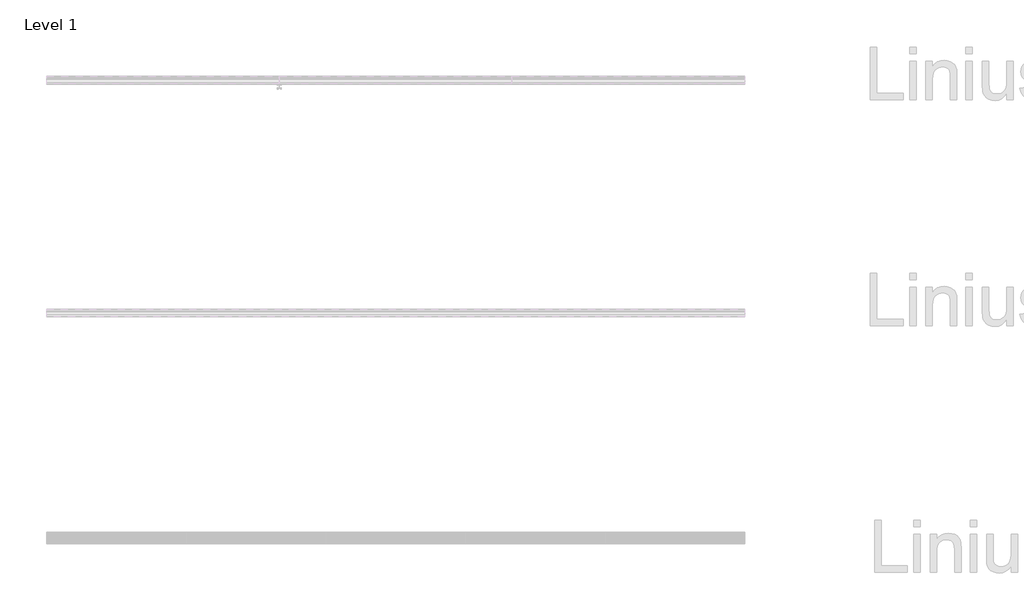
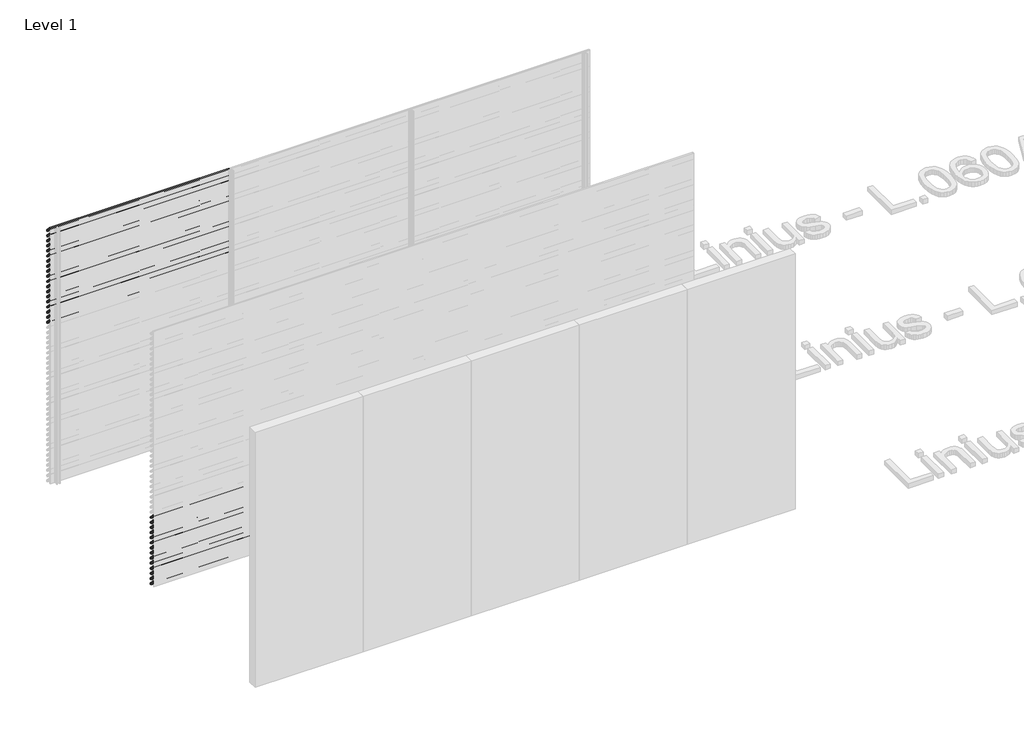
# One storey, part 50 of 153: 33 proxies.
"""IFC4 building model written with IfcOpenShell, lengths in millimetres."""

from ifc_helpers import new_model, si_unit, point, frame, frame_2d, origin, place, context, project, spatial, polyline, circle_curve, trimmed, segment, composite_curve, outline, extrude, element, save

model = new_model("IFC4")

# Units and contexts
model_context = context("Model", 3, world=origin())
ifc_project = project(units=[si_unit("LENGTHUNIT", "METRE", prefix="MILLI")], contexts=[model_context])

# Site, building, storey
site = spatial("IfcSite", under=ifc_project)
building = spatial("IfcBuilding", under=site)
storey = spatial("IfcBuildingStorey", under=building, Name="Level 1", Elevation=0.0)

# Proxies
placement = place(None, origin())
element("IfcBuildingElementProxy", 1, Name="Wall Sweeps", at=placement, inside=storey, context=model_context, shape_type="SweptSolid", body=[
    extrude(outline(composite_curve([segment(polyline([(21485.0540136, 3000.0), (21499.874191, 2998.7034025), (21549.0540136, 2945.0102749), (21549.0540136, 2933.6108187)]), True, "CONTINUOUS"), segment(trimmed(circle_curve(frame_2d((21545.7883652, 2933.897153)), 3.2781774), [point((21549.0540136, 2933.6108187))], [point((21546.4639442, 2930.6893438))], False, "CARTESIAN"), True, "CONTINUOUS"), segment(polyline([(21546.4639442, 2930.6893438), (21534.1895723, 2931.6282758), (21485.0540136, 2985.2730773), (21485.0540136, 3000.0)]), True, "CONTINUOUS")], self_intersect=False), holes=[composite_curve([segment(polyline([(21499.1621773, 2997.2599659), (21486.5540136, 2998.3630372), (21486.5540136, 2985.856213), (21534.8952036, 2933.0786805), (21546.3312542, 2932.2038762)]), True, "CONTINUOUS"), segment(trimmed(circle_curve(frame_2d((21545.7883652, 2933.897153)), 1.7781774), [point((21546.3312542, 2932.2038762))], [point((21547.5540136, 2933.6864389))], True, "CARTESIAN"), True, "CONTINUOUS"), segment(polyline([(21547.5540136, 2933.6864389), (21547.5540136, 2944.4271392), (21499.1621773, 2997.2599659)]), True, "CONTINUOUS")], self_intersect=False)]), frame((44966.6208097, 0.0, 0.0), z_axis=(1.0, 0.0, 0.0), x_axis=(0.0, 1.0, 0.0)), (0.0, 0.0, 1.0), 2000.0000001),
])
element("IfcBuildingElementProxy", 2, Name="Wall Sweeps", at=placement, inside=storey, context=model_context, shape_type="SweptSolid", body=[
    extrude(outline(composite_curve([segment(polyline([(21485.0540136, 2940.0), (21499.874191, 2938.7034025), (21549.0540136, 2885.0102749), (21549.0540136, 2873.6108187)]), True, "CONTINUOUS"), segment(trimmed(circle_curve(frame_2d((21545.7883652, 2873.897153)), 3.2781774), [point((21549.0540136, 2873.6108187))], [point((21546.4639442, 2870.6893438))], False, "CARTESIAN"), True, "CONTINUOUS"), segment(polyline([(21546.4639442, 2870.6893438), (21534.1895723, 2871.6282758), (21485.0540136, 2925.2730773), (21485.0540136, 2940.0)]), True, "CONTINUOUS")], self_intersect=False), holes=[composite_curve([segment(polyline([(21499.1621773, 2937.2599659), (21486.5540136, 2938.3630372), (21486.5540136, 2925.856213), (21534.8952036, 2873.0786805), (21546.3312542, 2872.2038762)]), True, "CONTINUOUS"), segment(trimmed(circle_curve(frame_2d((21545.7883652, 2873.897153)), 1.7781774), [point((21546.3312542, 2872.2038762))], [point((21547.5540136, 2873.6864389))], True, "CARTESIAN"), True, "CONTINUOUS"), segment(polyline([(21547.5540136, 2873.6864389), (21547.5540136, 2884.4271392), (21499.1621773, 2937.2599659)]), True, "CONTINUOUS")], self_intersect=False)]), frame((44966.6208097, 0.0, 0.0), z_axis=(1.0, 0.0, 0.0), x_axis=(0.0, 1.0, 0.0)), (0.0, 0.0, 1.0), 2000.0000001),
])
element("IfcBuildingElementProxy", 3, Name="Wall Sweeps", at=placement, inside=storey, context=model_context, shape_type="SweptSolid", body=[
    extrude(outline(composite_curve([segment(polyline([(21485.0540136, 2880.0), (21499.874191, 2878.7034025), (21549.0540136, 2825.0102749), (21549.0540136, 2813.6108187)]), True, "CONTINUOUS"), segment(trimmed(circle_curve(frame_2d((21545.7883652, 2813.897153)), 3.2781774), [point((21549.0540136, 2813.6108187))], [point((21546.4639442, 2810.6893438))], False, "CARTESIAN"), True, "CONTINUOUS"), segment(polyline([(21546.4639442, 2810.6893438), (21534.1895723, 2811.6282758), (21485.0540136, 2865.2730773), (21485.0540136, 2880.0)]), True, "CONTINUOUS")], self_intersect=False), holes=[composite_curve([segment(polyline([(21499.1621773, 2877.2599659), (21486.5540136, 2878.3630372), (21486.5540136, 2865.856213), (21534.8952036, 2813.0786805), (21546.3312542, 2812.2038762)]), True, "CONTINUOUS"), segment(trimmed(circle_curve(frame_2d((21545.7883652, 2813.897153)), 1.7781774), [point((21546.3312542, 2812.2038762))], [point((21547.5540136, 2813.6864389))], True, "CARTESIAN"), True, "CONTINUOUS"), segment(polyline([(21547.5540136, 2813.6864389), (21547.5540136, 2824.4271392), (21499.1621773, 2877.2599659)]), True, "CONTINUOUS")], self_intersect=False)]), frame((44966.6208097, 0.0, 0.0), z_axis=(1.0, 0.0, 0.0), x_axis=(0.0, 1.0, 0.0)), (0.0, 0.0, 1.0), 2000.0000001),
])
element("IfcBuildingElementProxy", 4, Name="Wall Sweeps", at=placement, inside=storey, context=model_context, shape_type="SweptSolid", body=[
    extrude(outline(composite_curve([segment(polyline([(21485.0540136, 2820.0), (21499.874191, 2818.7034025), (21549.0540136, 2765.0102749), (21549.0540136, 2753.6108187)]), True, "CONTINUOUS"), segment(trimmed(circle_curve(frame_2d((21545.7883652, 2753.897153)), 3.2781774), [point((21549.0540136, 2753.6108187))], [point((21546.4639442, 2750.6893438))], False, "CARTESIAN"), True, "CONTINUOUS"), segment(polyline([(21546.4639442, 2750.6893438), (21534.1895723, 2751.6282758), (21485.0540136, 2805.2730773), (21485.0540136, 2820.0)]), True, "CONTINUOUS")], self_intersect=False), holes=[composite_curve([segment(polyline([(21499.1621773, 2817.2599659), (21486.5540136, 2818.3630372), (21486.5540136, 2805.856213), (21534.8952036, 2753.0786805), (21546.3312542, 2752.2038762)]), True, "CONTINUOUS"), segment(trimmed(circle_curve(frame_2d((21545.7883652, 2753.897153)), 1.7781774), [point((21546.3312542, 2752.2038762))], [point((21547.5540136, 2753.6864389))], True, "CARTESIAN"), True, "CONTINUOUS"), segment(polyline([(21547.5540136, 2753.6864389), (21547.5540136, 2764.4271392), (21499.1621773, 2817.2599659)]), True, "CONTINUOUS")], self_intersect=False)]), frame((44966.6208097, 0.0, 0.0), z_axis=(1.0, 0.0, 0.0), x_axis=(0.0, 1.0, 0.0)), (0.0, 0.0, 1.0), 2000.0000001),
])
element("IfcBuildingElementProxy", 5, Name="Wall Sweeps", at=placement, inside=storey, context=model_context, shape_type="SweptSolid", body=[
    extrude(outline(composite_curve([segment(polyline([(21485.0540136, 2760.0), (21499.874191, 2758.7034025), (21549.0540136, 2705.0102749), (21549.0540136, 2693.6108187)]), True, "CONTINUOUS"), segment(trimmed(circle_curve(frame_2d((21545.7883652, 2693.897153)), 3.2781774), [point((21549.0540136, 2693.6108187))], [point((21546.4639442, 2690.6893438))], False, "CARTESIAN"), True, "CONTINUOUS"), segment(polyline([(21546.4639442, 2690.6893438), (21534.1895723, 2691.6282758), (21485.0540136, 2745.2730773), (21485.0540136, 2760.0)]), True, "CONTINUOUS")], self_intersect=False), holes=[composite_curve([segment(polyline([(21499.1621773, 2757.2599659), (21486.5540136, 2758.3630372), (21486.5540136, 2745.856213), (21534.8952036, 2693.0786805), (21546.3312542, 2692.2038762)]), True, "CONTINUOUS"), segment(trimmed(circle_curve(frame_2d((21545.7883652, 2693.897153)), 1.7781774), [point((21546.3312542, 2692.2038762))], [point((21547.5540136, 2693.6864389))], True, "CARTESIAN"), True, "CONTINUOUS"), segment(polyline([(21547.5540136, 2693.6864389), (21547.5540136, 2704.4271392), (21499.1621773, 2757.2599659)]), True, "CONTINUOUS")], self_intersect=False)]), frame((44966.6208097, 0.0, 0.0), z_axis=(1.0, 0.0, 0.0), x_axis=(0.0, 1.0, 0.0)), (0.0, 0.0, 1.0), 2000.0000001),
])
element("IfcBuildingElementProxy", 6, Name="Wall Sweeps", at=placement, inside=storey, context=model_context, shape_type="SweptSolid", body=[
    extrude(outline(composite_curve([segment(polyline([(21485.0540136, 2700.0), (21499.874191, 2698.7034025), (21549.0540136, 2645.0102749), (21549.0540136, 2633.6108187)]), True, "CONTINUOUS"), segment(trimmed(circle_curve(frame_2d((21545.7883652, 2633.897153)), 3.2781774), [point((21549.0540136, 2633.6108187))], [point((21546.4639442, 2630.6893438))], False, "CARTESIAN"), True, "CONTINUOUS"), segment(polyline([(21546.4639442, 2630.6893438), (21534.1895723, 2631.6282758), (21485.0540136, 2685.2730773), (21485.0540136, 2700.0)]), True, "CONTINUOUS")], self_intersect=False), holes=[composite_curve([segment(polyline([(21499.1621773, 2697.2599659), (21486.5540136, 2698.3630372), (21486.5540136, 2685.856213), (21534.8952036, 2633.0786805), (21546.3312542, 2632.2038762)]), True, "CONTINUOUS"), segment(trimmed(circle_curve(frame_2d((21545.7883652, 2633.897153)), 1.7781774), [point((21546.3312542, 2632.2038762))], [point((21547.5540136, 2633.6864389))], True, "CARTESIAN"), True, "CONTINUOUS"), segment(polyline([(21547.5540136, 2633.6864389), (21547.5540136, 2644.4271392), (21499.1621773, 2697.2599659)]), True, "CONTINUOUS")], self_intersect=False)]), frame((44966.6208097, 0.0, 0.0), z_axis=(1.0, 0.0, 0.0), x_axis=(0.0, 1.0, 0.0)), (0.0, 0.0, 1.0), 2000.0000001),
])
element("IfcBuildingElementProxy", 7, Name="Wall Sweeps", at=placement, inside=storey, context=model_context, shape_type="SweptSolid", body=[
    extrude(outline(composite_curve([segment(polyline([(21485.0540136, 2640.0), (21499.874191, 2638.7034025), (21549.0540136, 2585.0102749), (21549.0540136, 2573.6108187)]), True, "CONTINUOUS"), segment(trimmed(circle_curve(frame_2d((21545.7883652, 2573.897153)), 3.2781774), [point((21549.0540136, 2573.6108187))], [point((21546.4639442, 2570.6893438))], False, "CARTESIAN"), True, "CONTINUOUS"), segment(polyline([(21546.4639442, 2570.6893438), (21534.1895723, 2571.6282758), (21485.0540136, 2625.2730773), (21485.0540136, 2640.0)]), True, "CONTINUOUS")], self_intersect=False), holes=[composite_curve([segment(polyline([(21499.1621773, 2637.2599659), (21486.5540136, 2638.3630372), (21486.5540136, 2625.856213), (21534.8952036, 2573.0786805), (21546.3312542, 2572.2038762)]), True, "CONTINUOUS"), segment(trimmed(circle_curve(frame_2d((21545.7883652, 2573.897153)), 1.7781774), [point((21546.3312542, 2572.2038762))], [point((21547.5540136, 2573.6864389))], True, "CARTESIAN"), True, "CONTINUOUS"), segment(polyline([(21547.5540136, 2573.6864389), (21547.5540136, 2584.4271392), (21499.1621773, 2637.2599659)]), True, "CONTINUOUS")], self_intersect=False)]), frame((44966.6208097, 0.0, 0.0), z_axis=(1.0, 0.0, 0.0), x_axis=(0.0, 1.0, 0.0)), (0.0, 0.0, 1.0), 2000.0000001),
])
element("IfcBuildingElementProxy", 8, Name="Wall Sweeps", at=placement, inside=storey, context=model_context, shape_type="SweptSolid", body=[
    extrude(outline(composite_curve([segment(polyline([(21485.0540136, 2580.0), (21499.874191, 2578.7034025), (21549.0540136, 2525.0102749), (21549.0540136, 2513.6108187)]), True, "CONTINUOUS"), segment(trimmed(circle_curve(frame_2d((21545.7883652, 2513.897153)), 3.2781774), [point((21549.0540136, 2513.6108187))], [point((21546.4639442, 2510.6893438))], False, "CARTESIAN"), True, "CONTINUOUS"), segment(polyline([(21546.4639442, 2510.6893438), (21534.1895723, 2511.6282758), (21485.0540136, 2565.2730773), (21485.0540136, 2580.0)]), True, "CONTINUOUS")], self_intersect=False), holes=[composite_curve([segment(polyline([(21499.1621773, 2577.2599659), (21486.5540136, 2578.3630372), (21486.5540136, 2565.856213), (21534.8952036, 2513.0786805), (21546.3312542, 2512.2038762)]), True, "CONTINUOUS"), segment(trimmed(circle_curve(frame_2d((21545.7883652, 2513.897153)), 1.7781774), [point((21546.3312542, 2512.2038762))], [point((21547.5540136, 2513.6864389))], True, "CARTESIAN"), True, "CONTINUOUS"), segment(polyline([(21547.5540136, 2513.6864389), (21547.5540136, 2524.4271392), (21499.1621773, 2577.2599659)]), True, "CONTINUOUS")], self_intersect=False)]), frame((44966.6208097, 0.0, 0.0), z_axis=(1.0, 0.0, 0.0), x_axis=(0.0, 1.0, 0.0)), (0.0, 0.0, 1.0), 2000.0000001),
])
element("IfcBuildingElementProxy", 9, Name="Wall Sweeps", at=placement, inside=storey, context=model_context, shape_type="SweptSolid", body=[
    extrude(outline(composite_curve([segment(polyline([(21485.0540136, 2520.0), (21499.874191, 2518.7034025), (21549.0540136, 2465.0102749), (21549.0540136, 2453.6108187)]), True, "CONTINUOUS"), segment(trimmed(circle_curve(frame_2d((21545.7883652, 2453.897153)), 3.2781774), [point((21549.0540136, 2453.6108187))], [point((21546.4639442, 2450.6893438))], False, "CARTESIAN"), True, "CONTINUOUS"), segment(polyline([(21546.4639442, 2450.6893438), (21534.1895723, 2451.6282758), (21485.0540136, 2505.2730773), (21485.0540136, 2520.0)]), True, "CONTINUOUS")], self_intersect=False), holes=[composite_curve([segment(polyline([(21499.1621773, 2517.2599659), (21486.5540136, 2518.3630372), (21486.5540136, 2505.856213), (21534.8952036, 2453.0786805), (21546.3312542, 2452.2038762)]), True, "CONTINUOUS"), segment(trimmed(circle_curve(frame_2d((21545.7883652, 2453.897153)), 1.7781774), [point((21546.3312542, 2452.2038762))], [point((21547.5540136, 2453.6864389))], True, "CARTESIAN"), True, "CONTINUOUS"), segment(polyline([(21547.5540136, 2453.6864389), (21547.5540136, 2464.4271392), (21499.1621773, 2517.2599659)]), True, "CONTINUOUS")], self_intersect=False)]), frame((44966.6208097, 0.0, 0.0), z_axis=(1.0, 0.0, 0.0), x_axis=(0.0, 1.0, 0.0)), (0.0, 0.0, 1.0), 2000.0000001),
])
element("IfcBuildingElementProxy", 10, Name="Wall Sweeps", at=placement, inside=storey, context=model_context, shape_type="SweptSolid", body=[
    extrude(outline(composite_curve([segment(polyline([(21485.0540136, 2460.0), (21499.874191, 2458.7034025), (21549.0540136, 2405.0102749), (21549.0540136, 2393.6108187)]), True, "CONTINUOUS"), segment(trimmed(circle_curve(frame_2d((21545.7883652, 2393.897153)), 3.2781774), [point((21549.0540136, 2393.6108187))], [point((21546.4639442, 2390.6893438))], False, "CARTESIAN"), True, "CONTINUOUS"), segment(polyline([(21546.4639442, 2390.6893438), (21534.1895723, 2391.6282758), (21485.0540136, 2445.2730773), (21485.0540136, 2460.0)]), True, "CONTINUOUS")], self_intersect=False), holes=[composite_curve([segment(polyline([(21499.1621773, 2457.2599659), (21486.5540136, 2458.3630372), (21486.5540136, 2445.856213), (21534.8952036, 2393.0786805), (21546.3312542, 2392.2038762)]), True, "CONTINUOUS"), segment(trimmed(circle_curve(frame_2d((21545.7883652, 2393.897153)), 1.7781774), [point((21546.3312542, 2392.2038762))], [point((21547.5540136, 2393.6864389))], True, "CARTESIAN"), True, "CONTINUOUS"), segment(polyline([(21547.5540136, 2393.6864389), (21547.5540136, 2404.4271392), (21499.1621773, 2457.2599659)]), True, "CONTINUOUS")], self_intersect=False)]), frame((44966.6208097, 0.0, 0.0), z_axis=(1.0, 0.0, 0.0), x_axis=(0.0, 1.0, 0.0)), (0.0, 0.0, 1.0), 2000.0000001),
])
element("IfcBuildingElementProxy", 11, Name="Wall Sweeps", at=placement, inside=storey, context=model_context, shape_type="SweptSolid", body=[
    extrude(outline(composite_curve([segment(polyline([(21485.0540136, 2400.0), (21499.874191, 2398.7034025), (21549.0540136, 2345.0102749), (21549.0540136, 2333.6108187)]), True, "CONTINUOUS"), segment(trimmed(circle_curve(frame_2d((21545.7883652, 2333.897153)), 3.2781774), [point((21549.0540136, 2333.6108187))], [point((21546.4639442, 2330.6893438))], False, "CARTESIAN"), True, "CONTINUOUS"), segment(polyline([(21546.4639442, 2330.6893438), (21534.1895723, 2331.6282758), (21485.0540136, 2385.2730773), (21485.0540136, 2400.0)]), True, "CONTINUOUS")], self_intersect=False), holes=[composite_curve([segment(polyline([(21499.1621773, 2397.2599659), (21486.5540136, 2398.3630372), (21486.5540136, 2385.856213), (21534.8952036, 2333.0786805), (21546.3312542, 2332.2038762)]), True, "CONTINUOUS"), segment(trimmed(circle_curve(frame_2d((21545.7883652, 2333.897153)), 1.7781774), [point((21546.3312542, 2332.2038762))], [point((21547.5540136, 2333.6864389))], True, "CARTESIAN"), True, "CONTINUOUS"), segment(polyline([(21547.5540136, 2333.6864389), (21547.5540136, 2344.4271392), (21499.1621773, 2397.2599659)]), True, "CONTINUOUS")], self_intersect=False)]), frame((44966.6208097, 0.0, 0.0), z_axis=(1.0, 0.0, 0.0), x_axis=(0.0, 1.0, 0.0)), (0.0, 0.0, 1.0), 2000.0000001),
])
element("IfcBuildingElementProxy", 12, Name="Wall Sweeps", at=placement, inside=storey, context=model_context, shape_type="SweptSolid", body=[
    extrude(outline(composite_curve([segment(polyline([(21485.0540136, 2340.0), (21499.874191, 2338.7034025), (21549.0540136, 2285.0102749), (21549.0540136, 2273.6108187)]), True, "CONTINUOUS"), segment(trimmed(circle_curve(frame_2d((21545.7883652, 2273.897153)), 3.2781774), [point((21549.0540136, 2273.6108187))], [point((21546.4639442, 2270.6893438))], False, "CARTESIAN"), True, "CONTINUOUS"), segment(polyline([(21546.4639442, 2270.6893438), (21534.1895723, 2271.6282758), (21485.0540136, 2325.2730773), (21485.0540136, 2340.0)]), True, "CONTINUOUS")], self_intersect=False), holes=[composite_curve([segment(polyline([(21499.1621773, 2337.2599659), (21486.5540136, 2338.3630372), (21486.5540136, 2325.856213), (21534.8952036, 2273.0786805), (21546.3312542, 2272.2038762)]), True, "CONTINUOUS"), segment(trimmed(circle_curve(frame_2d((21545.7883652, 2273.897153)), 1.7781774), [point((21546.3312542, 2272.2038762))], [point((21547.5540136, 2273.6864389))], True, "CARTESIAN"), True, "CONTINUOUS"), segment(polyline([(21547.5540136, 2273.6864389), (21547.5540136, 2284.4271392), (21499.1621773, 2337.2599659)]), True, "CONTINUOUS")], self_intersect=False)]), frame((44966.6208097, 0.0, 0.0), z_axis=(1.0, 0.0, 0.0), x_axis=(0.0, 1.0, 0.0)), (0.0, 0.0, 1.0), 2000.0000001),
])
element("IfcBuildingElementProxy", 13, Name="Wall Sweeps", at=placement, inside=storey, context=model_context, shape_type="SweptSolid", body=[
    extrude(outline(composite_curve([segment(polyline([(21485.0540136, 2280.0), (21499.874191, 2278.7034025), (21549.0540136, 2225.0102749), (21549.0540136, 2213.6108187)]), True, "CONTINUOUS"), segment(trimmed(circle_curve(frame_2d((21545.7883652, 2213.897153)), 3.2781774), [point((21549.0540136, 2213.6108187))], [point((21546.4639442, 2210.6893438))], False, "CARTESIAN"), True, "CONTINUOUS"), segment(polyline([(21546.4639442, 2210.6893438), (21534.1895723, 2211.6282758), (21485.0540136, 2265.2730773), (21485.0540136, 2280.0)]), True, "CONTINUOUS")], self_intersect=False), holes=[composite_curve([segment(polyline([(21499.1621773, 2277.2599659), (21486.5540136, 2278.3630372), (21486.5540136, 2265.856213), (21534.8952036, 2213.0786805), (21546.3312542, 2212.2038762)]), True, "CONTINUOUS"), segment(trimmed(circle_curve(frame_2d((21545.7883652, 2213.897153)), 1.7781774), [point((21546.3312542, 2212.2038762))], [point((21547.5540136, 2213.6864389))], True, "CARTESIAN"), True, "CONTINUOUS"), segment(polyline([(21547.5540136, 2213.6864389), (21547.5540136, 2224.4271392), (21499.1621773, 2277.2599659)]), True, "CONTINUOUS")], self_intersect=False)]), frame((44966.6208097, 0.0, 0.0), z_axis=(1.0, 0.0, 0.0), x_axis=(0.0, 1.0, 0.0)), (0.0, 0.0, 1.0), 2000.0000001),
])
element("IfcBuildingElementProxy", 14, Name="Wall Sweeps", at=placement, inside=storey, context=model_context, shape_type="SweptSolid", body=[
    extrude(outline(composite_curve([segment(polyline([(21485.0540136, 2220.0), (21499.874191, 2218.7034025), (21549.0540136, 2165.0102749), (21549.0540136, 2153.6108187)]), True, "CONTINUOUS"), segment(trimmed(circle_curve(frame_2d((21545.7883652, 2153.897153)), 3.2781774), [point((21549.0540136, 2153.6108187))], [point((21546.4639442, 2150.6893438))], False, "CARTESIAN"), True, "CONTINUOUS"), segment(polyline([(21546.4639442, 2150.6893438), (21534.1895723, 2151.6282758), (21485.0540136, 2205.2730773), (21485.0540136, 2220.0)]), True, "CONTINUOUS")], self_intersect=False), holes=[composite_curve([segment(polyline([(21499.1621773, 2217.2599659), (21486.5540136, 2218.3630372), (21486.5540136, 2205.856213), (21534.8952036, 2153.0786805), (21546.3312542, 2152.2038762)]), True, "CONTINUOUS"), segment(trimmed(circle_curve(frame_2d((21545.7883652, 2153.897153)), 1.7781774), [point((21546.3312542, 2152.2038762))], [point((21547.5540136, 2153.6864389))], True, "CARTESIAN"), True, "CONTINUOUS"), segment(polyline([(21547.5540136, 2153.6864389), (21547.5540136, 2164.4271392), (21499.1621773, 2217.2599659)]), True, "CONTINUOUS")], self_intersect=False)]), frame((44966.6208097, 0.0, 0.0), z_axis=(1.0, 0.0, 0.0), x_axis=(0.0, 1.0, 0.0)), (0.0, 0.0, 1.0), 2000.0000001),
])
element("IfcBuildingElementProxy", 15, Name="Wall Sweeps", at=placement, inside=storey, context=model_context, shape_type="SweptSolid", body=[
    extrude(outline(composite_curve([segment(polyline([(21485.0540136, 2160.0), (21499.874191, 2158.7034025), (21549.0540136, 2105.0102749), (21549.0540136, 2093.6108187)]), True, "CONTINUOUS"), segment(trimmed(circle_curve(frame_2d((21545.7883652, 2093.897153)), 3.2781774), [point((21549.0540136, 2093.6108187))], [point((21546.4639442, 2090.6893438))], False, "CARTESIAN"), True, "CONTINUOUS"), segment(polyline([(21546.4639442, 2090.6893438), (21534.1895723, 2091.6282758), (21485.0540136, 2145.2730773), (21485.0540136, 2160.0)]), True, "CONTINUOUS")], self_intersect=False), holes=[composite_curve([segment(polyline([(21499.1621773, 2157.2599659), (21486.5540136, 2158.3630372), (21486.5540136, 2145.856213), (21534.8952036, 2093.0786805), (21546.3312542, 2092.2038762)]), True, "CONTINUOUS"), segment(trimmed(circle_curve(frame_2d((21545.7883652, 2093.897153)), 1.7781774), [point((21546.3312542, 2092.2038762))], [point((21547.5540136, 2093.6864389))], True, "CARTESIAN"), True, "CONTINUOUS"), segment(polyline([(21547.5540136, 2093.6864389), (21547.5540136, 2104.4271392), (21499.1621773, 2157.2599659)]), True, "CONTINUOUS")], self_intersect=False)]), frame((44966.6208097, 0.0, 0.0), z_axis=(1.0, 0.0, 0.0), x_axis=(0.0, 1.0, 0.0)), (0.0, 0.0, 1.0), 2000.0000001),
])
element("IfcBuildingElementProxy", 16, Name="Wall Sweeps", at=placement, inside=storey, context=model_context, shape_type="SweptSolid", body=[
    extrude(outline(composite_curve([segment(polyline([(21485.0540136, 2100.0), (21499.874191, 2098.7034025), (21549.0540136, 2045.0102749), (21549.0540136, 2033.6108187)]), True, "CONTINUOUS"), segment(trimmed(circle_curve(frame_2d((21545.7883652, 2033.897153)), 3.2781774), [point((21549.0540136, 2033.6108187))], [point((21546.4639442, 2030.6893438))], False, "CARTESIAN"), True, "CONTINUOUS"), segment(polyline([(21546.4639442, 2030.6893438), (21534.1895723, 2031.6282758), (21485.0540136, 2085.2730773), (21485.0540136, 2100.0)]), True, "CONTINUOUS")], self_intersect=False), holes=[composite_curve([segment(polyline([(21499.1621773, 2097.2599659), (21486.5540136, 2098.3630372), (21486.5540136, 2085.856213), (21534.8952036, 2033.0786805), (21546.3312542, 2032.2038762)]), True, "CONTINUOUS"), segment(trimmed(circle_curve(frame_2d((21545.7883652, 2033.897153)), 1.7781774), [point((21546.3312542, 2032.2038762))], [point((21547.5540136, 2033.6864389))], True, "CARTESIAN"), True, "CONTINUOUS"), segment(polyline([(21547.5540136, 2033.6864389), (21547.5540136, 2044.4271392), (21499.1621773, 2097.2599659)]), True, "CONTINUOUS")], self_intersect=False)]), frame((44966.6208097, 0.0, 0.0), z_axis=(1.0, 0.0, 0.0), x_axis=(0.0, 1.0, 0.0)), (0.0, 0.0, 1.0), 2000.0000001),
])
element("IfcBuildingElementProxy", 17, Name="Wall Sweeps", at=placement, inside=storey, context=model_context, shape_type="SweptSolid", body=[
    extrude(outline(composite_curve([segment(polyline([(21485.0540136, 2040.0), (21499.874191, 2038.7034025), (21549.0540136, 1985.0102749), (21549.0540136, 1973.6108187)]), True, "CONTINUOUS"), segment(trimmed(circle_curve(frame_2d((21545.7883652, 1973.897153)), 3.2781774), [point((21549.0540136, 1973.6108187))], [point((21546.4639442, 1970.6893438))], False, "CARTESIAN"), True, "CONTINUOUS"), segment(polyline([(21546.4639442, 1970.6893438), (21534.1895723, 1971.6282758), (21485.0540136, 2025.2730773), (21485.0540136, 2040.0)]), True, "CONTINUOUS")], self_intersect=False), holes=[composite_curve([segment(polyline([(21499.1621773, 2037.2599659), (21486.5540136, 2038.3630372), (21486.5540136, 2025.856213), (21534.8952036, 1973.0786805), (21546.3312542, 1972.2038762)]), True, "CONTINUOUS"), segment(trimmed(circle_curve(frame_2d((21545.7883652, 1973.897153)), 1.7781774), [point((21546.3312542, 1972.2038762))], [point((21547.5540136, 1973.6864389))], True, "CARTESIAN"), True, "CONTINUOUS"), segment(polyline([(21547.5540136, 1973.6864389), (21547.5540136, 1984.4271392), (21499.1621773, 2037.2599659)]), True, "CONTINUOUS")], self_intersect=False)]), frame((44966.6208097, 0.0, 0.0), z_axis=(1.0, 0.0, 0.0), x_axis=(0.0, 1.0, 0.0)), (0.0, 0.0, 1.0), 2000.0000001),
])
element("IfcBuildingElementProxy", 18, Name="Wall Sweeps", at=placement, inside=storey, context=model_context, shape_type="SweptSolid", body=[
    extrude(outline(composite_curve([segment(polyline([(21485.0540136, 1980.0), (21499.874191, 1978.7034025), (21549.0540136, 1925.0102749), (21549.0540136, 1913.6108187)]), True, "CONTINUOUS"), segment(trimmed(circle_curve(frame_2d((21545.7883652, 1913.897153)), 3.2781774), [point((21549.0540136, 1913.6108187))], [point((21546.4639442, 1910.6893438))], False, "CARTESIAN"), True, "CONTINUOUS"), segment(polyline([(21546.4639442, 1910.6893438), (21534.1895723, 1911.6282758), (21485.0540136, 1965.2730773), (21485.0540136, 1980.0)]), True, "CONTINUOUS")], self_intersect=False), holes=[composite_curve([segment(polyline([(21499.1621773, 1977.2599659), (21486.5540136, 1978.3630372), (21486.5540136, 1965.856213), (21534.8952036, 1913.0786805), (21546.3312542, 1912.2038762)]), True, "CONTINUOUS"), segment(trimmed(circle_curve(frame_2d((21545.7883652, 1913.897153)), 1.7781774), [point((21546.3312542, 1912.2038762))], [point((21547.5540136, 1913.6864389))], True, "CARTESIAN"), True, "CONTINUOUS"), segment(polyline([(21547.5540136, 1913.6864389), (21547.5540136, 1924.4271392), (21499.1621773, 1977.2599659)]), True, "CONTINUOUS")], self_intersect=False)]), frame((44966.6208097, 0.0, 0.0), z_axis=(1.0, 0.0, 0.0), x_axis=(0.0, 1.0, 0.0)), (0.0, 0.0, 1.0), 2000.0000001),
])
element("IfcBuildingElementProxy", 19, Name="Wall Sweeps", at=placement, inside=storey, context=model_context, shape_type="SweptSolid", body=[
    extrude(outline(composite_curve([segment(polyline([(21485.0540136, 1920.0), (21499.874191, 1918.7034025), (21549.0540136, 1865.0102749), (21549.0540136, 1853.6108187)]), True, "CONTINUOUS"), segment(trimmed(circle_curve(frame_2d((21545.7883652, 1853.897153)), 3.2781774), [point((21549.0540136, 1853.6108187))], [point((21546.4639442, 1850.6893438))], False, "CARTESIAN"), True, "CONTINUOUS"), segment(polyline([(21546.4639442, 1850.6893438), (21534.1895723, 1851.6282758), (21485.0540136, 1905.2730773), (21485.0540136, 1920.0)]), True, "CONTINUOUS")], self_intersect=False), holes=[composite_curve([segment(polyline([(21499.1621773, 1917.2599659), (21486.5540136, 1918.3630372), (21486.5540136, 1905.856213), (21534.8952036, 1853.0786805), (21546.3312542, 1852.2038762)]), True, "CONTINUOUS"), segment(trimmed(circle_curve(frame_2d((21545.7883652, 1853.897153)), 1.7781774), [point((21546.3312542, 1852.2038762))], [point((21547.5540136, 1853.6864389))], True, "CARTESIAN"), True, "CONTINUOUS"), segment(polyline([(21547.5540136, 1853.6864389), (21547.5540136, 1864.4271392), (21499.1621773, 1917.2599659)]), True, "CONTINUOUS")], self_intersect=False)]), frame((44966.6208097, 0.0, 0.0), z_axis=(1.0, 0.0, 0.0), x_axis=(0.0, 1.0, 0.0)), (0.0, 0.0, 1.0), 2000.0000001),
])
element("IfcBuildingElementProxy", 20, Name="Wall Sweeps", at=placement, inside=storey, context=model_context, shape_type="SweptSolid", body=[
    extrude(outline(composite_curve([segment(polyline([(19485.0540136, 840.0), (19499.874191, 838.7034025), (19549.0540136, 785.0102749), (19549.0540136, 773.6108187)]), True, "CONTINUOUS"), segment(trimmed(circle_curve(frame_2d((19545.7883652, 773.897153)), 3.2781774), [point((19549.0540136, 773.6108187))], [point((19546.4639442, 770.6893438))], False, "CARTESIAN"), True, "CONTINUOUS"), segment(polyline([(19546.4639442, 770.6893438), (19534.1895723, 771.6282758), (19485.0540136, 825.2730773), (19485.0540136, 840.0)]), True, "CONTINUOUS")], self_intersect=False), holes=[composite_curve([segment(polyline([(19499.1621773, 837.2599659), (19486.5540136, 838.3630372), (19486.5540136, 825.856213), (19534.8952036, 773.0786805), (19546.3312542, 772.2038762)]), True, "CONTINUOUS"), segment(trimmed(circle_curve(frame_2d((19545.7883652, 773.897153)), 1.7781774), [point((19546.3312542, 772.2038762))], [point((19547.5540136, 773.6864389))], True, "CARTESIAN"), True, "CONTINUOUS"), segment(polyline([(19547.5540136, 773.6864389), (19547.5540136, 784.4271392), (19499.1621773, 837.2599659)]), True, "CONTINUOUS")], self_intersect=False)]), frame((44966.6208097, 0.0, 0.0), z_axis=(1.0, 0.0, 0.0), x_axis=(0.0, 1.0, 0.0)), (0.0, 0.0, 1.0), 6000.0),
])
element("IfcBuildingElementProxy", 21, Name="Wall Sweeps", at=placement, inside=storey, context=model_context, shape_type="SweptSolid", body=[
    extrude(outline(composite_curve([segment(polyline([(19485.0540136, 780.0), (19499.874191, 778.7034025), (19549.0540136, 725.0102749), (19549.0540136, 713.6108187)]), True, "CONTINUOUS"), segment(trimmed(circle_curve(frame_2d((19545.7883652, 713.897153)), 3.2781774), [point((19549.0540136, 713.6108187))], [point((19546.4639442, 710.6893438))], False, "CARTESIAN"), True, "CONTINUOUS"), segment(polyline([(19546.4639442, 710.6893438), (19534.1895723, 711.6282758), (19485.0540136, 765.2730773), (19485.0540136, 780.0)]), True, "CONTINUOUS")], self_intersect=False), holes=[composite_curve([segment(polyline([(19499.1621773, 777.2599659), (19486.5540136, 778.3630372), (19486.5540136, 765.856213), (19534.8952036, 713.0786805), (19546.3312542, 712.2038762)]), True, "CONTINUOUS"), segment(trimmed(circle_curve(frame_2d((19545.7883652, 713.897153)), 1.7781774), [point((19546.3312542, 712.2038762))], [point((19547.5540136, 713.6864389))], True, "CARTESIAN"), True, "CONTINUOUS"), segment(polyline([(19547.5540136, 713.6864389), (19547.5540136, 724.4271392), (19499.1621773, 777.2599659)]), True, "CONTINUOUS")], self_intersect=False)]), frame((44966.6208097, 0.0, 0.0), z_axis=(1.0, 0.0, 0.0), x_axis=(0.0, 1.0, 0.0)), (0.0, 0.0, 1.0), 6000.0),
])
element("IfcBuildingElementProxy", 22, Name="Wall Sweeps", at=placement, inside=storey, context=model_context, shape_type="SweptSolid", body=[
    extrude(outline(composite_curve([segment(polyline([(19485.0540136, 720.0), (19499.874191, 718.7034025), (19549.0540136, 665.0102749), (19549.0540136, 653.6108187)]), True, "CONTINUOUS"), segment(trimmed(circle_curve(frame_2d((19545.7883652, 653.897153)), 3.2781774), [point((19549.0540136, 653.6108187))], [point((19546.4639442, 650.6893438))], False, "CARTESIAN"), True, "CONTINUOUS"), segment(polyline([(19546.4639442, 650.6893438), (19534.1895723, 651.6282758), (19485.0540136, 705.2730773), (19485.0540136, 720.0)]), True, "CONTINUOUS")], self_intersect=False), holes=[composite_curve([segment(polyline([(19499.1621773, 717.2599659), (19486.5540136, 718.3630372), (19486.5540136, 705.856213), (19534.8952036, 653.0786805), (19546.3312542, 652.2038762)]), True, "CONTINUOUS"), segment(trimmed(circle_curve(frame_2d((19545.7883652, 653.897153)), 1.7781774), [point((19546.3312542, 652.2038762))], [point((19547.5540136, 653.6864389))], True, "CARTESIAN"), True, "CONTINUOUS"), segment(polyline([(19547.5540136, 653.6864389), (19547.5540136, 664.4271392), (19499.1621773, 717.2599659)]), True, "CONTINUOUS")], self_intersect=False)]), frame((44966.6208097, 0.0, 0.0), z_axis=(1.0, 0.0, 0.0), x_axis=(0.0, 1.0, 0.0)), (0.0, 0.0, 1.0), 6000.0),
])
element("IfcBuildingElementProxy", 23, Name="Wall Sweeps", at=placement, inside=storey, context=model_context, shape_type="SweptSolid", body=[
    extrude(outline(composite_curve([segment(polyline([(19485.0540136, 660.0), (19499.874191, 658.7034025), (19549.0540136, 605.0102749), (19549.0540136, 593.6108187)]), True, "CONTINUOUS"), segment(trimmed(circle_curve(frame_2d((19545.7883652, 593.897153)), 3.2781774), [point((19549.0540136, 593.6108187))], [point((19546.4639442, 590.6893438))], False, "CARTESIAN"), True, "CONTINUOUS"), segment(polyline([(19546.4639442, 590.6893438), (19534.1895723, 591.6282758), (19485.0540136, 645.2730773), (19485.0540136, 660.0)]), True, "CONTINUOUS")], self_intersect=False), holes=[composite_curve([segment(polyline([(19499.1621773, 657.2599659), (19486.5540136, 658.3630372), (19486.5540136, 645.856213), (19534.8952036, 593.0786805), (19546.3312542, 592.2038762)]), True, "CONTINUOUS"), segment(trimmed(circle_curve(frame_2d((19545.7883652, 593.897153)), 1.7781774), [point((19546.3312542, 592.2038762))], [point((19547.5540136, 593.6864389))], True, "CARTESIAN"), True, "CONTINUOUS"), segment(polyline([(19547.5540136, 593.6864389), (19547.5540136, 604.4271392), (19499.1621773, 657.2599659)]), True, "CONTINUOUS")], self_intersect=False)]), frame((44966.6208097, 0.0, 0.0), z_axis=(1.0, 0.0, 0.0), x_axis=(0.0, 1.0, 0.0)), (0.0, 0.0, 1.0), 6000.0),
])
element("IfcBuildingElementProxy", 24, Name="Wall Sweeps", at=placement, inside=storey, context=model_context, shape_type="SweptSolid", body=[
    extrude(outline(composite_curve([segment(polyline([(19485.0540136, 600.0), (19499.874191, 598.7034025), (19549.0540136, 545.0102749), (19549.0540136, 533.6108187)]), True, "CONTINUOUS"), segment(trimmed(circle_curve(frame_2d((19545.7883652, 533.897153)), 3.2781774), [point((19549.0540136, 533.6108187))], [point((19546.4639442, 530.6893438))], False, "CARTESIAN"), True, "CONTINUOUS"), segment(polyline([(19546.4639442, 530.6893438), (19534.1895723, 531.6282758), (19485.0540136, 585.2730773), (19485.0540136, 600.0)]), True, "CONTINUOUS")], self_intersect=False), holes=[composite_curve([segment(polyline([(19499.1621773, 597.2599659), (19486.5540136, 598.3630372), (19486.5540136, 585.856213), (19534.8952036, 533.0786805), (19546.3312542, 532.2038762)]), True, "CONTINUOUS"), segment(trimmed(circle_curve(frame_2d((19545.7883652, 533.897153)), 1.7781774), [point((19546.3312542, 532.2038762))], [point((19547.5540136, 533.6864389))], True, "CARTESIAN"), True, "CONTINUOUS"), segment(polyline([(19547.5540136, 533.6864389), (19547.5540136, 544.4271392), (19499.1621773, 597.2599659)]), True, "CONTINUOUS")], self_intersect=False)]), frame((44966.6208097, 0.0, 0.0), z_axis=(1.0, 0.0, 0.0), x_axis=(0.0, 1.0, 0.0)), (0.0, 0.0, 1.0), 6000.0),
])
element("IfcBuildingElementProxy", 25, Name="Wall Sweeps", at=placement, inside=storey, context=model_context, shape_type="SweptSolid", body=[
    extrude(outline(composite_curve([segment(polyline([(19485.0540136, 540.0), (19499.874191, 538.7034025), (19549.0540136, 485.0102749), (19549.0540136, 473.6108187)]), True, "CONTINUOUS"), segment(trimmed(circle_curve(frame_2d((19545.7883652, 473.897153)), 3.2781774), [point((19549.0540136, 473.6108187))], [point((19546.4639442, 470.6893438))], False, "CARTESIAN"), True, "CONTINUOUS"), segment(polyline([(19546.4639442, 470.6893438), (19534.1895723, 471.6282758), (19485.0540136, 525.2730773), (19485.0540136, 540.0)]), True, "CONTINUOUS")], self_intersect=False), holes=[composite_curve([segment(polyline([(19499.1621773, 537.2599659), (19486.5540136, 538.3630372), (19486.5540136, 525.856213), (19534.8952036, 473.0786805), (19546.3312542, 472.2038762)]), True, "CONTINUOUS"), segment(trimmed(circle_curve(frame_2d((19545.7883652, 473.897153)), 1.7781774), [point((19546.3312542, 472.2038762))], [point((19547.5540136, 473.6864389))], True, "CARTESIAN"), True, "CONTINUOUS"), segment(polyline([(19547.5540136, 473.6864389), (19547.5540136, 484.4271392), (19499.1621773, 537.2599659)]), True, "CONTINUOUS")], self_intersect=False)]), frame((44966.6208097, 0.0, 0.0), z_axis=(1.0, 0.0, 0.0), x_axis=(0.0, 1.0, 0.0)), (0.0, 0.0, 1.0), 6000.0),
])
element("IfcBuildingElementProxy", 26, Name="Wall Sweeps", at=placement, inside=storey, context=model_context, shape_type="SweptSolid", body=[
    extrude(outline(composite_curve([segment(polyline([(19485.0540136, 480.0), (19499.874191, 478.7034025), (19549.0540136, 425.0102749), (19549.0540136, 413.6108187)]), True, "CONTINUOUS"), segment(trimmed(circle_curve(frame_2d((19545.7883652, 413.897153)), 3.2781774), [point((19549.0540136, 413.6108187))], [point((19546.4639442, 410.6893438))], False, "CARTESIAN"), True, "CONTINUOUS"), segment(polyline([(19546.4639442, 410.6893438), (19534.1895723, 411.6282758), (19485.0540136, 465.2730773), (19485.0540136, 480.0)]), True, "CONTINUOUS")], self_intersect=False), holes=[composite_curve([segment(polyline([(19499.1621773, 477.2599659), (19486.5540136, 478.3630372), (19486.5540136, 465.856213), (19534.8952036, 413.0786805), (19546.3312542, 412.2038762)]), True, "CONTINUOUS"), segment(trimmed(circle_curve(frame_2d((19545.7883652, 413.897153)), 1.7781774), [point((19546.3312542, 412.2038762))], [point((19547.5540136, 413.6864389))], True, "CARTESIAN"), True, "CONTINUOUS"), segment(polyline([(19547.5540136, 413.6864389), (19547.5540136, 424.4271392), (19499.1621773, 477.2599659)]), True, "CONTINUOUS")], self_intersect=False)]), frame((44966.6208097, 0.0, 0.0), z_axis=(1.0, 0.0, 0.0), x_axis=(0.0, 1.0, 0.0)), (0.0, 0.0, 1.0), 6000.0),
])
element("IfcBuildingElementProxy", 27, Name="Wall Sweeps", at=placement, inside=storey, context=model_context, shape_type="SweptSolid", body=[
    extrude(outline(composite_curve([segment(polyline([(19485.0540136, 420.0), (19499.874191, 418.7034025), (19549.0540136, 365.0102749), (19549.0540136, 353.6108187)]), True, "CONTINUOUS"), segment(trimmed(circle_curve(frame_2d((19545.7883652, 353.897153)), 3.2781774), [point((19549.0540136, 353.6108187))], [point((19546.4639442, 350.6893438))], False, "CARTESIAN"), True, "CONTINUOUS"), segment(polyline([(19546.4639442, 350.6893438), (19534.1895723, 351.6282758), (19485.0540136, 405.2730773), (19485.0540136, 420.0)]), True, "CONTINUOUS")], self_intersect=False), holes=[composite_curve([segment(polyline([(19499.1621773, 417.2599659), (19486.5540136, 418.3630372), (19486.5540136, 405.856213), (19534.8952036, 353.0786805), (19546.3312542, 352.2038762)]), True, "CONTINUOUS"), segment(trimmed(circle_curve(frame_2d((19545.7883652, 353.897153)), 1.7781774), [point((19546.3312542, 352.2038762))], [point((19547.5540136, 353.6864389))], True, "CARTESIAN"), True, "CONTINUOUS"), segment(polyline([(19547.5540136, 353.6864389), (19547.5540136, 364.4271392), (19499.1621773, 417.2599659)]), True, "CONTINUOUS")], self_intersect=False)]), frame((44966.6208097, 0.0, 0.0), z_axis=(1.0, 0.0, 0.0), x_axis=(0.0, 1.0, 0.0)), (0.0, 0.0, 1.0), 6000.0),
])
element("IfcBuildingElementProxy", 28, Name="Wall Sweeps", at=placement, inside=storey, context=model_context, shape_type="SweptSolid", body=[
    extrude(outline(composite_curve([segment(polyline([(19485.0540136, 360.0), (19499.874191, 358.7034025), (19549.0540136, 305.0102749), (19549.0540136, 293.6108187)]), True, "CONTINUOUS"), segment(trimmed(circle_curve(frame_2d((19545.7883652, 293.897153)), 3.2781774), [point((19549.0540136, 293.6108187))], [point((19546.4639442, 290.6893438))], False, "CARTESIAN"), True, "CONTINUOUS"), segment(polyline([(19546.4639442, 290.6893438), (19534.1895723, 291.6282758), (19485.0540136, 345.2730773), (19485.0540136, 360.0)]), True, "CONTINUOUS")], self_intersect=False), holes=[composite_curve([segment(polyline([(19499.1621773, 357.2599659), (19486.5540136, 358.3630372), (19486.5540136, 345.856213), (19534.8952036, 293.0786805), (19546.3312542, 292.2038762)]), True, "CONTINUOUS"), segment(trimmed(circle_curve(frame_2d((19545.7883652, 293.897153)), 1.7781774), [point((19546.3312542, 292.2038762))], [point((19547.5540136, 293.6864389))], True, "CARTESIAN"), True, "CONTINUOUS"), segment(polyline([(19547.5540136, 293.6864389), (19547.5540136, 304.4271392), (19499.1621773, 357.2599659)]), True, "CONTINUOUS")], self_intersect=False)]), frame((44966.6208097, 0.0, 0.0), z_axis=(1.0, 0.0, 0.0), x_axis=(0.0, 1.0, 0.0)), (0.0, 0.0, 1.0), 6000.0),
])
element("IfcBuildingElementProxy", 29, Name="Wall Sweeps", at=placement, inside=storey, context=model_context, shape_type="SweptSolid", body=[
    extrude(outline(composite_curve([segment(polyline([(19485.0540136, 300.0), (19499.874191, 298.7034025), (19549.0540136, 245.0102749), (19549.0540136, 233.6108187)]), True, "CONTINUOUS"), segment(trimmed(circle_curve(frame_2d((19545.7883652, 233.897153)), 3.2781774), [point((19549.0540136, 233.6108187))], [point((19546.4639442, 230.6893438))], False, "CARTESIAN"), True, "CONTINUOUS"), segment(polyline([(19546.4639442, 230.6893438), (19534.1895723, 231.6282758), (19485.0540136, 285.2730773), (19485.0540136, 300.0)]), True, "CONTINUOUS")], self_intersect=False), holes=[composite_curve([segment(polyline([(19499.1621773, 297.2599659), (19486.5540136, 298.3630372), (19486.5540136, 285.856213), (19534.8952036, 233.0786805), (19546.3312542, 232.2038762)]), True, "CONTINUOUS"), segment(trimmed(circle_curve(frame_2d((19545.7883652, 233.897153)), 1.7781774), [point((19546.3312542, 232.2038762))], [point((19547.5540136, 233.6864389))], True, "CARTESIAN"), True, "CONTINUOUS"), segment(polyline([(19547.5540136, 233.6864389), (19547.5540136, 244.4271392), (19499.1621773, 297.2599659)]), True, "CONTINUOUS")], self_intersect=False)]), frame((44966.6208097, 0.0, 0.0), z_axis=(1.0, 0.0, 0.0), x_axis=(0.0, 1.0, 0.0)), (0.0, 0.0, 1.0), 6000.0),
])
element("IfcBuildingElementProxy", 30, Name="Wall Sweeps", at=placement, inside=storey, context=model_context, shape_type="SweptSolid", body=[
    extrude(outline(composite_curve([segment(polyline([(19485.0540136, 240.0), (19499.874191, 238.7034025), (19549.0540136, 185.0102749), (19549.0540136, 173.6108187)]), True, "CONTINUOUS"), segment(trimmed(circle_curve(frame_2d((19545.7883652, 173.897153)), 3.2781774), [point((19549.0540136, 173.6108187))], [point((19546.4639442, 170.6893438))], False, "CARTESIAN"), True, "CONTINUOUS"), segment(polyline([(19546.4639442, 170.6893438), (19534.1895723, 171.6282758), (19485.0540136, 225.2730773), (19485.0540136, 240.0)]), True, "CONTINUOUS")], self_intersect=False), holes=[composite_curve([segment(polyline([(19499.1621773, 237.2599659), (19486.5540136, 238.3630372), (19486.5540136, 225.856213), (19534.8952036, 173.0786805), (19546.3312542, 172.2038762)]), True, "CONTINUOUS"), segment(trimmed(circle_curve(frame_2d((19545.7883652, 173.897153)), 1.7781774), [point((19546.3312542, 172.2038762))], [point((19547.5540136, 173.6864389))], True, "CARTESIAN"), True, "CONTINUOUS"), segment(polyline([(19547.5540136, 173.6864389), (19547.5540136, 184.4271392), (19499.1621773, 237.2599659)]), True, "CONTINUOUS")], self_intersect=False)]), frame((44966.6208097, 0.0, 0.0), z_axis=(1.0, 0.0, 0.0), x_axis=(0.0, 1.0, 0.0)), (0.0, 0.0, 1.0), 6000.0),
])
element("IfcBuildingElementProxy", 31, Name="Wall Sweeps", at=placement, inside=storey, context=model_context, shape_type="SweptSolid", body=[
    extrude(outline(composite_curve([segment(polyline([(19485.0540136, 180.0), (19499.874191, 178.7034025), (19549.0540136, 125.0102749), (19549.0540136, 113.6108187)]), True, "CONTINUOUS"), segment(trimmed(circle_curve(frame_2d((19545.7883652, 113.897153)), 3.2781774), [point((19549.0540136, 113.6108187))], [point((19546.4639442, 110.6893438))], False, "CARTESIAN"), True, "CONTINUOUS"), segment(polyline([(19546.4639442, 110.6893438), (19534.1895723, 111.6282758), (19485.0540136, 165.2730773), (19485.0540136, 180.0)]), True, "CONTINUOUS")], self_intersect=False), holes=[composite_curve([segment(polyline([(19499.1621773, 177.2599659), (19486.5540136, 178.3630372), (19486.5540136, 165.856213), (19534.8952036, 113.0786805), (19546.3312542, 112.2038762)]), True, "CONTINUOUS"), segment(trimmed(circle_curve(frame_2d((19545.7883652, 113.897153)), 1.7781774), [point((19546.3312542, 112.2038762))], [point((19547.5540136, 113.6864389))], True, "CARTESIAN"), True, "CONTINUOUS"), segment(polyline([(19547.5540136, 113.6864389), (19547.5540136, 124.4271392), (19499.1621773, 177.2599659)]), True, "CONTINUOUS")], self_intersect=False)]), frame((44966.6208097, 0.0, 0.0), z_axis=(1.0, 0.0, 0.0), x_axis=(0.0, 1.0, 0.0)), (0.0, 0.0, 1.0), 6000.0),
])
element("IfcBuildingElementProxy", 32, Name="Wall Sweeps", at=placement, inside=storey, context=model_context, shape_type="SweptSolid", body=[
    extrude(outline(composite_curve([segment(polyline([(19485.0540136, 120.0), (19499.874191, 118.7034025), (19549.0540136, 65.0102749), (19549.0540136, 53.6108187)]), True, "CONTINUOUS"), segment(trimmed(circle_curve(frame_2d((19545.7883652, 53.897153)), 3.2781774), [point((19549.0540136, 53.6108187))], [point((19546.4639442, 50.6893438))], False, "CARTESIAN"), True, "CONTINUOUS"), segment(polyline([(19546.4639442, 50.6893438), (19534.1895723, 51.6282758), (19485.0540136, 105.2730773), (19485.0540136, 120.0)]), True, "CONTINUOUS")], self_intersect=False), holes=[composite_curve([segment(polyline([(19499.1621773, 117.2599659), (19486.5540136, 118.3630372), (19486.5540136, 105.856213), (19534.8952036, 53.0786805), (19546.3312542, 52.2038762)]), True, "CONTINUOUS"), segment(trimmed(circle_curve(frame_2d((19545.7883652, 53.897153)), 1.7781774), [point((19546.3312542, 52.2038762))], [point((19547.5540136, 53.6864389))], True, "CARTESIAN"), True, "CONTINUOUS"), segment(polyline([(19547.5540136, 53.6864389), (19547.5540136, 64.4271392), (19499.1621773, 117.2599659)]), True, "CONTINUOUS")], self_intersect=False)]), frame((44966.6208097, 0.0, 0.0), z_axis=(1.0, 0.0, 0.0), x_axis=(0.0, 1.0, 0.0)), (0.0, 0.0, 1.0), 6000.0),
])
element("IfcBuildingElementProxy", 33, Name="Wall Sweeps", at=placement, inside=storey, context=model_context, shape_type="SweptSolid", body=[
    extrude(outline(composite_curve([segment(polyline([(19485.0540136, 60.0), (19499.874191, 58.7034025), (19549.0540136, 5.0102749), (19549.0540136, -6.3891813)]), True, "CONTINUOUS"), segment(trimmed(circle_curve(frame_2d((19545.7883652, -6.102847)), 3.2781774), [point((19549.0540136, -6.3891813))], [point((19546.4639442, -9.3106562))], False, "CARTESIAN"), True, "CONTINUOUS"), segment(polyline([(19546.4639442, -9.3106562), (19534.1895723, -8.3717242), (19485.0540136, 45.2730773), (19485.0540136, 60.0)]), True, "CONTINUOUS")], self_intersect=False), holes=[composite_curve([segment(polyline([(19499.1621773, 57.2599659), (19486.5540136, 58.3630372), (19486.5540136, 45.856213), (19534.8952036, -6.9213195), (19546.3312542, -7.7961238)]), True, "CONTINUOUS"), segment(trimmed(circle_curve(frame_2d((19545.7883652, -6.102847)), 1.7781774), [point((19546.3312542, -7.7961238))], [point((19547.5540136, -6.3135611))], True, "CARTESIAN"), True, "CONTINUOUS"), segment(polyline([(19547.5540136, -6.3135611), (19547.5540136, 4.4271392), (19499.1621773, 57.2599659)]), True, "CONTINUOUS")], self_intersect=False)]), frame((44966.6208097, 0.0, 0.0), z_axis=(1.0, 0.0, 0.0), x_axis=(0.0, 1.0, 0.0)), (0.0, 0.0, 1.0), 6000.0),
])

save(model, "model.ifc")
